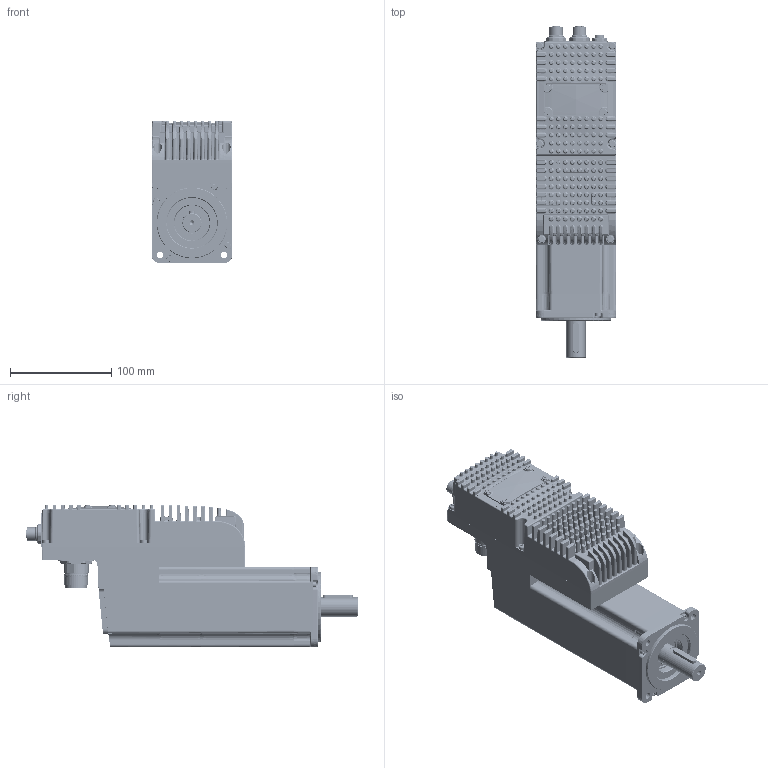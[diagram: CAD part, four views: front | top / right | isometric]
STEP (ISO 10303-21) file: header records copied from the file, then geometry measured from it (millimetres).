
FILE_DESCRIPTION(('CATIA V5 STEP Exchange'),'2;1');
FILE_NAME('F:\Meccanica\IBD\80\3D\assemblati\Custom MPC\DUET HV 80 2,8 A1 1 E 0\MD301513.0.0\DUET_HV_80_2,8_A1_1_E_0.stp','2015-07-23T06:04:29+00:00',('none'),('none'),'CATIA Version 5 Release 19 SP 2 (IN-10)','CATIA V5 STEP AP214','none');
FILE_SCHEMA(('AUTOMOTIVE_DESIGN { 1 0 10303 214 1 1 1 1 }'));
Products named in the file (56): DUET HV 80 2,8 A1 1 E 0; MD151014.1.0; MD081003.2.0; V_VTCTX40X12A; V_VTCTX3X6(8.8); LC101004.2.2.n; JS20MNQD6; JS26FSQ7; LT709037RLF1; UKSZ8721BLI; UET1100; JTP1633-2; PC101004.1.0; DLS5977701507; DLRR; DLRV; DWFR01FR10PS; LC051027.2.0; J_7458000000; Connettore_M23_IO; J_7001919137; frutto 16+3; contatto_1mm; contatto_1.5.mm; J_7651000000; Connettore_M23_pot; J_7084943101; JAC7010941001; JAC7010942001; MD081005.6.0; LC101003.3.0; PC101003.3.0; J_4301236; J_RKMHL4S55; JS20FDT7; dado_M12_conec; dado_M8_lumberg; MMTC802.817001258002Z4; Vite a brugola testa cil 8,8 -  M  3 x 10; Vite a brugola testa cil 8,8 -  M  3 x 50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
Assembly tree (103 placements, depth 4):
  DUET HV 80 2,8 A1 1 E 0
    MD151014.1.0
    MD081003.2.0
    V_VTCTX40X12A  x6
    V_VTCTX3X6(8.8)  x4
    LC101004.2.2.n
      JS20MNQD6
      JS26FSQ7
      LT709037RLF1  x2
      UKSZ8721BLI  x2
      UET1100
      JTP1633-2  x2
      PC101004.1.0
      DLS5977701507  x6
      DLRR
      DLRV  x3
      DWFR01FR10PS  x3
    LC051027.2.0
      J_7458000000
        Connettore_M23_IO
      J_7001919137
        frutto 16+3
        contatto_1mm  x16
        contatto_1.5.mm  x3
      J_7651000000
        Connettore_M23_pot
      J_7084943101
      JAC7010941001  x4
      JAC7010942001  x3
    MD081005.6.0
    LC101003.3.0
      PC101003.3.0
      J_4301236  x2
      J_RKMHL4S55
      JS20FDT7
    dado_M12_conec  x2
    dado_M8_lumberg
    MMTC802.817001258002Z4
      Vite a brugola testa cil 8,8 -  M  3 x 10  x2
      Vite a brugola testa cil 8,8 -  M  3 x 50  x2
      Vite a brugola testa cil 8,8 -  M  3 x 60  x2
      KI 80 2,8Nm_FR_pred kit azionamento_enc std_OIH35_vuoto
        LI-PIA   6x6 x 30
        CUSC_20_42_12_6004_ZZ_4
        A-Ela  20
        N33250
        N27221
        Vite a brugola testa cil 8,8 -  M  3 x 25
        Vite a brugola testa cil 8,8 -  M  3 x 25-oa0
        Vite a brugola testa cil 8,8 -  M  3 x 25-oa1
        Vite a brugola testa cil 8,8 -  M  3 x 25-oa2
        N01386
        N09295
        N09295_1
      MD081001.4.0
    Dado_M23_IO  x2
Bounding box: 80 x 328.5 x 141.2 mm (x, y, z)
Volume: 701181 mm3; surface area: 419295.8 mm2
Topology: 103 solids, 108 shells, 10732 faces, 28571 edges, 18317 vertices
Faces by surface type: plane 4237, cylinder 3454, torus 1025, cone 912, bspline 660, sphere 317, extrusion 123, revolution 4
Entity records: 343763 total; most frequent: CARTESIAN_POINT 114616, ORIENTED_EDGE 44926, DIRECTION 30540, EDGE_CURVE 22465, VERTEX_POINT 14572, AXIS2_PLACEMENT_3D 14033, VECTOR 10291, LINE 10168
